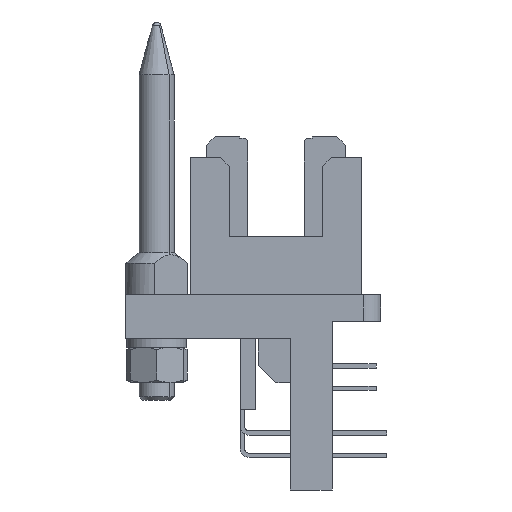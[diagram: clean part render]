
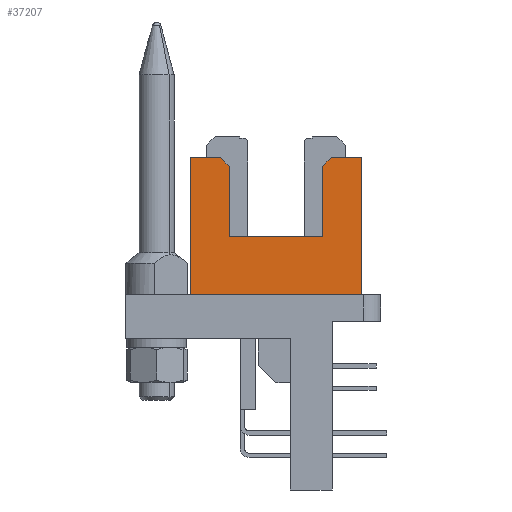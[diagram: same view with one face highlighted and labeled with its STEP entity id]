
A CAD part, left-side view. The second image highlights one B-rep face of the part: STEP entity #37207.
In plain terms, the highlighted planar face has unit normal (-1, 0, 0).
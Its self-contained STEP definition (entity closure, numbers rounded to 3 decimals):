
#30 = CARTESIAN_POINT ( 'NONE',  ( -27.9, -2.65, 8.8 ) ) ;
#897 = LINE ( 'NONE', #39973, #36007 ) ;
#920 = CARTESIAN_POINT ( 'NONE',  ( -27.9, 2.65, 4.8 ) ) ;
#1218 = VERTEX_POINT ( 'NONE', #27425 ) ;
#1395 = DIRECTION ( 'NONE',  ( 0., 0., -1. ) ) ;
#2318 = DIRECTION ( 'NONE',  ( 0., 0., 1. ) ) ;
#2337 = VERTEX_POINT ( 'NONE', #10926 ) ;
#3008 = DIRECTION ( 'NONE',  ( 0., 0., -1. ) ) ;
#3444 = EDGE_LOOP ( 'NONE', ( #39621, #44896, #44676, #12938, #48260, #11686, #9218, #40742, #42965, #35655 ) ) ;
#3486 = CARTESIAN_POINT ( 'NONE',  ( -27.9, 4.85, 1.5 ) ) ;
#3762 = CARTESIAN_POINT ( 'NONE',  ( -27.9, -2.65, 9.3 ) ) ;
#4930 = PLANE ( 'NONE',  #14230 ) ;
#4948 = EDGE_CURVE ( 'NONE', #1218, #22269, #11658, .T. ) ;
#5733 = CARTESIAN_POINT ( 'NONE',  ( -27.9, -4.85, 9.3 ) ) ;
#5785 = CARTESIAN_POINT ( 'NONE',  ( -27.9, -3.15, 9.3 ) ) ;
#7630 = DIRECTION ( 'NONE',  ( 0., 0., -1. ) ) ;
#8008 = DIRECTION ( 'NONE',  ( 0., 0.707, -0.707 ) ) ;
#8813 = CARTESIAN_POINT ( 'NONE',  ( -27.9, 3.15, 9.3 ) ) ;
#9218 = ORIENTED_EDGE ( 'NONE', *, *, #20214, .T. ) ;
#10926 = CARTESIAN_POINT ( 'NONE',  ( -27.9, -2.65, 4.8 ) ) ;
#11177 = EDGE_CURVE ( 'NONE', #17576, #19496, #18038, .T. ) ;
#11658 = LINE ( 'NONE', #23602, #39669 ) ;
#11686 = ORIENTED_EDGE ( 'NONE', *, *, #45253, .T. ) ;
#11953 = LINE ( 'NONE', #3762, #12473 ) ;
#12235 = CARTESIAN_POINT ( 'NONE',  ( -27.9, 2.65, 4.8 ) ) ;
#12473 = VECTOR ( 'NONE', #3008, 1000. ) ;
#12735 = VECTOR ( 'NONE', #44642, 1000. ) ;
#12938 = ORIENTED_EDGE ( 'NONE', *, *, #38531, .T. ) ;
#13804 = VECTOR ( 'NONE', #38393, 1000. ) ;
#14230 = AXIS2_PLACEMENT_3D ( 'NONE', #36406, #36150, #1395 ) ;
#15669 = VERTEX_POINT ( 'NONE', #41844 ) ;
#15720 = VERTEX_POINT ( 'NONE', #3486 ) ;
#16386 = FACE_OUTER_BOUND ( 'NONE', #3444, .T. ) ;
#16483 = DIRECTION ( 'NONE',  ( 0., 1., 0. ) ) ;
#17468 = CARTESIAN_POINT ( 'NONE',  ( -27.9, -4.85, 1.5 ) ) ;
#17576 = VERTEX_POINT ( 'NONE', #12235 ) ;
#18038 = LINE ( 'NONE', #29991, #18951 ) ;
#18581 = CARTESIAN_POINT ( 'NONE',  ( -27.9, 4.85, 1.5 ) ) ;
#18951 = VECTOR ( 'NONE', #2318, 1000. ) ;
#19496 = VERTEX_POINT ( 'NONE', #28969 ) ;
#20214 = EDGE_CURVE ( 'NONE', #2337, #17576, #20230, .T. ) ;
#20230 = LINE ( 'NONE', #920, #40197 ) ;
#22223 = CARTESIAN_POINT ( 'NONE',  ( -27.9, 4.85, 9.3 ) ) ;
#22269 = VERTEX_POINT ( 'NONE', #22223 ) ;
#23602 = CARTESIAN_POINT ( 'NONE',  ( -27.9, 3.15, 9.3 ) ) ;
#26506 = CARTESIAN_POINT ( 'NONE',  ( -27.9, -4.85, 1.5 ) ) ;
#27425 = CARTESIAN_POINT ( 'NONE',  ( -27.9, 3.15, 9.3 ) ) ;
#27460 = VERTEX_POINT ( 'NONE', #17468 ) ;
#28144 = VECTOR ( 'NONE', #43141, 1000. ) ;
#28169 = LINE ( 'NONE', #8813, #28144 ) ;
#28969 = CARTESIAN_POINT ( 'NONE',  ( -27.9, 2.65, 8.8 ) ) ;
#29991 = CARTESIAN_POINT ( 'NONE',  ( -27.9, 2.65, 9.3 ) ) ;
#30001 = EDGE_CURVE ( 'NONE', #27460, #15720, #30586, .T. ) ;
#30586 = LINE ( 'NONE', #35358, #13804 ) ;
#31063 = DIRECTION ( 'NONE',  ( 0., 0., -1. ) ) ;
#31820 = EDGE_CURVE ( 'NONE', #22269, #15720, #42441, .T. ) ;
#32161 = DIRECTION ( 'NONE',  ( 0., 1., 0. ) ) ;
#33791 = VECTOR ( 'NONE', #31063, 1000. ) ;
#35204 = VERTEX_POINT ( 'NONE', #30 ) ;
#35358 = CARTESIAN_POINT ( 'NONE',  ( -27.9, -14.369, 1.5 ) ) ;
#35655 = ORIENTED_EDGE ( 'NONE', *, *, #4948, .T. ) ;
#35943 = LINE ( 'NONE', #5733, #12735 ) ;
#36007 = VECTOR ( 'NONE', #8008, 1000. ) ;
#36150 = DIRECTION ( 'NONE',  ( 1., 0., 0. ) ) ;
#36406 = CARTESIAN_POINT ( 'NONE',  ( -27.9, -14.369, 1.5 ) ) ;
#37207 = ADVANCED_FACE ( 'NONE', ( #16386 ), #4930, .F. ) ;
#38285 = VECTOR ( 'NONE', #7630, 1000. ) ;
#38393 = DIRECTION ( 'NONE',  ( 0., 1., 0. ) ) ;
#38531 = EDGE_CURVE ( 'NONE', #15669, #42039, #35943, .T. ) ;
#39621 = ORIENTED_EDGE ( 'NONE', *, *, #31820, .T. ) ;
#39669 = VECTOR ( 'NONE', #16483, 1000. ) ;
#39973 = CARTESIAN_POINT ( 'NONE',  ( -27.9, -2.65, 8.8 ) ) ;
#40197 = VECTOR ( 'NONE', #32161, 1000. ) ;
#40742 = ORIENTED_EDGE ( 'NONE', *, *, #11177, .T. ) ;
#41844 = CARTESIAN_POINT ( 'NONE',  ( -27.9, -4.85, 9.3 ) ) ;
#42039 = VERTEX_POINT ( 'NONE', #5785 ) ;
#42441 = LINE ( 'NONE', #18581, #38285 ) ;
#42965 = ORIENTED_EDGE ( 'NONE', *, *, #49560, .T. ) ;
#43141 = DIRECTION ( 'NONE',  ( 0., 0.707, 0.707 ) ) ;
#44642 = DIRECTION ( 'NONE',  ( 0., 1., 0. ) ) ;
#44676 = ORIENTED_EDGE ( 'NONE', *, *, #49238, .F. ) ;
#44896 = ORIENTED_EDGE ( 'NONE', *, *, #30001, .F. ) ;
#45253 = EDGE_CURVE ( 'NONE', #35204, #2337, #11953, .T. ) ;
#47014 = EDGE_CURVE ( 'NONE', #42039, #35204, #897, .T. ) ;
#48260 = ORIENTED_EDGE ( 'NONE', *, *, #47014, .T. ) ;
#49238 = EDGE_CURVE ( 'NONE', #15669, #27460, #50072, .T. ) ;
#49560 = EDGE_CURVE ( 'NONE', #19496, #1218, #28169, .T. ) ;
#50072 = LINE ( 'NONE', #26506, #33791 ) ;
